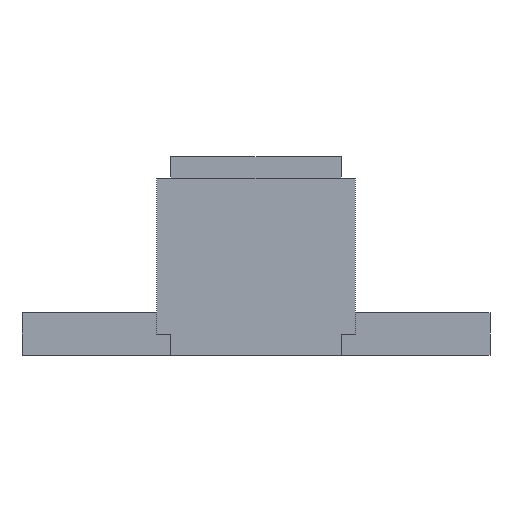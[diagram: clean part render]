
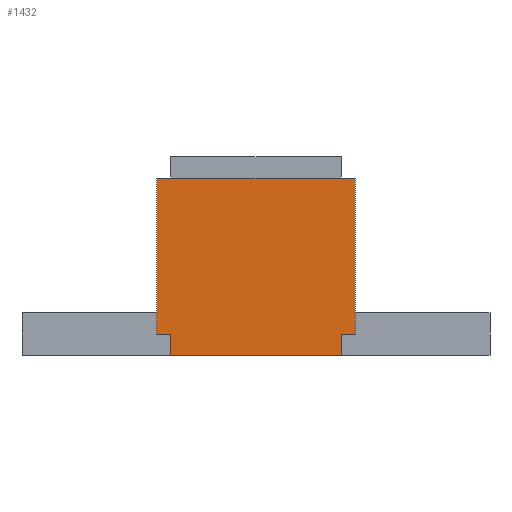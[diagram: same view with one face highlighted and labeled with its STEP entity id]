
A CAD part, front view. The second image highlights one B-rep face of the part: STEP entity #1432.
In plain terms, the highlighted planar face has unit normal (0, -1, 0).
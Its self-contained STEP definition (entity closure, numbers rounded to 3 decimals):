
#126 = PLANE('',#127);
#127 = AXIS2_PLACEMENT_3D('',#128,#129,#130);
#128 = CARTESIAN_POINT('',(0.,86.,0.));
#129 = DIRECTION('',(0.,0.,-1.));
#130 = DIRECTION('',(1.,0.,0.));
#294 = VERTEX_POINT('',#295);
#295 = CARTESIAN_POINT('',(45.,0.,0.));
#309 = PLANE('',#310);
#310 = AXIS2_PLACEMENT_3D('',#311,#312,#313);
#311 = CARTESIAN_POINT('',(45.,24.,6.));
#312 = DIRECTION('',(1.,0.,0.));
#313 = DIRECTION('',(0.,0.,-1.));
#321 = EDGE_CURVE('',#322,#294,#324,.T.);
#322 = VERTEX_POINT('',#323);
#323 = CARTESIAN_POINT('',(21.,0.,0.));
#324 = SURFACE_CURVE('',#325,(#329,#336),.PCURVE_S1.);
#325 = LINE('',#326,#327);
#326 = CARTESIAN_POINT('',(21.,0.,0.));
#327 = VECTOR('',#328,1.);
#328 = DIRECTION('',(1.,0.,0.));
#329 = PCURVE('',#126,#330);
#330 = DEFINITIONAL_REPRESENTATION('',(#331),#335);
#331 = LINE('',#332,#333);
#332 = CARTESIAN_POINT('',(21.,86.));
#333 = VECTOR('',#334,1.);
#334 = DIRECTION('',(1.,0.));
#335 = ( GEOMETRIC_REPRESENTATION_CONTEXT(2) 
PARAMETRIC_REPRESENTATION_CONTEXT() REPRESENTATION_CONTEXT('2D SPACE',''
  ) );
#336 = PCURVE('',#337,#342);
#337 = PLANE('',#338);
#338 = AXIS2_PLACEMENT_3D('',#339,#340,#341);
#339 = CARTESIAN_POINT('',(21.,0.,6.));
#340 = DIRECTION('',(0.,-1.,0.));
#341 = DIRECTION('',(0.,0.,-1.));
#342 = DEFINITIONAL_REPRESENTATION('',(#343),#347);
#343 = LINE('',#344,#345);
#344 = CARTESIAN_POINT('',(6.,0.));
#345 = VECTOR('',#346,1.);
#346 = DIRECTION('',(0.,1.));
#347 = ( GEOMETRIC_REPRESENTATION_CONTEXT(2) 
PARAMETRIC_REPRESENTATION_CONTEXT() REPRESENTATION_CONTEXT('2D SPACE',''
  ) );
#363 = PLANE('',#364);
#364 = AXIS2_PLACEMENT_3D('',#365,#366,#367);
#365 = CARTESIAN_POINT('',(21.,24.,6.));
#366 = DIRECTION('',(1.,0.,0.));
#367 = DIRECTION('',(0.,0.,-1.));
#1385 = VERTEX_POINT('',#1386);
#1386 = CARTESIAN_POINT('',(21.,0.,3.));
#1400 = PLANE('',#1401);
#1401 = AXIS2_PLACEMENT_3D('',#1402,#1403,#1404);
#1402 = CARTESIAN_POINT('',(19.,3.,3.));
#1403 = DIRECTION('',(0.,0.,-1.));
#1404 = DIRECTION('',(1.,0.,0.));
#1412 = EDGE_CURVE('',#1385,#322,#1413,.T.);
#1413 = SURFACE_CURVE('',#1414,(#1418,#1425),.PCURVE_S1.);
#1414 = LINE('',#1415,#1416);
#1415 = CARTESIAN_POINT('',(21.,0.,6.));
#1416 = VECTOR('',#1417,1.);
#1417 = DIRECTION('',(0.,0.,-1.));
#1418 = PCURVE('',#363,#1419);
#1419 = DEFINITIONAL_REPRESENTATION('',(#1420),#1424);
#1420 = LINE('',#1421,#1422);
#1421 = CARTESIAN_POINT('',(0.,-24.));
#1422 = VECTOR('',#1423,1.);
#1423 = DIRECTION('',(1.,0.));
#1424 = ( GEOMETRIC_REPRESENTATION_CONTEXT(2) 
PARAMETRIC_REPRESENTATION_CONTEXT() REPRESENTATION_CONTEXT('2D SPACE',''
  ) );
#1425 = PCURVE('',#337,#1426);
#1426 = DEFINITIONAL_REPRESENTATION('',(#1427),#1431);
#1427 = LINE('',#1428,#1429);
#1428 = CARTESIAN_POINT('',(0.,0.));
#1429 = VECTOR('',#1430,1.);
#1430 = DIRECTION('',(1.,0.));
#1431 = ( GEOMETRIC_REPRESENTATION_CONTEXT(2) 
PARAMETRIC_REPRESENTATION_CONTEXT() REPRESENTATION_CONTEXT('2D SPACE',''
  ) );
#1432 = ADVANCED_FACE('',(#1433),#337,.T.);
#1433 = FACE_BOUND('',#1434,.T.);
#1434 = EDGE_LOOP('',(#1435,#1458,#1486,#1514,#1542,#1570,#1591,#1592));
#1435 = ORIENTED_EDGE('',*,*,#1436,.F.);
#1436 = EDGE_CURVE('',#1437,#294,#1439,.T.);
#1437 = VERTEX_POINT('',#1438);
#1438 = CARTESIAN_POINT('',(45.,0.,3.));
#1439 = SURFACE_CURVE('',#1440,(#1444,#1451),.PCURVE_S1.);
#1440 = LINE('',#1441,#1442);
#1441 = CARTESIAN_POINT('',(45.,0.,6.));
#1442 = VECTOR('',#1443,1.);
#1443 = DIRECTION('',(0.,0.,-1.));
#1444 = PCURVE('',#337,#1445);
#1445 = DEFINITIONAL_REPRESENTATION('',(#1446),#1450);
#1446 = LINE('',#1447,#1448);
#1447 = CARTESIAN_POINT('',(0.,24.));
#1448 = VECTOR('',#1449,1.);
#1449 = DIRECTION('',(1.,0.));
#1450 = ( GEOMETRIC_REPRESENTATION_CONTEXT(2) 
PARAMETRIC_REPRESENTATION_CONTEXT() REPRESENTATION_CONTEXT('2D SPACE',''
  ) );
#1451 = PCURVE('',#309,#1452);
#1452 = DEFINITIONAL_REPRESENTATION('',(#1453),#1457);
#1453 = LINE('',#1454,#1455);
#1454 = CARTESIAN_POINT('',(0.,-24.));
#1455 = VECTOR('',#1456,1.);
#1456 = DIRECTION('',(1.,0.));
#1457 = ( GEOMETRIC_REPRESENTATION_CONTEXT(2) 
PARAMETRIC_REPRESENTATION_CONTEXT() REPRESENTATION_CONTEXT('2D SPACE',''
  ) );
#1458 = ORIENTED_EDGE('',*,*,#1459,.T.);
#1459 = EDGE_CURVE('',#1437,#1460,#1462,.T.);
#1460 = VERTEX_POINT('',#1461);
#1461 = CARTESIAN_POINT('',(47.,0.,3.));
#1462 = SURFACE_CURVE('',#1463,(#1467,#1474),.PCURVE_S1.);
#1463 = LINE('',#1464,#1465);
#1464 = CARTESIAN_POINT('',(19.,0.,3.));
#1465 = VECTOR('',#1466,1.);
#1466 = DIRECTION('',(1.,0.,0.));
#1467 = PCURVE('',#337,#1468);
#1468 = DEFINITIONAL_REPRESENTATION('',(#1469),#1473);
#1469 = LINE('',#1470,#1471);
#1470 = CARTESIAN_POINT('',(3.,-2.));
#1471 = VECTOR('',#1472,1.);
#1472 = DIRECTION('',(0.,1.));
#1473 = ( GEOMETRIC_REPRESENTATION_CONTEXT(2) 
PARAMETRIC_REPRESENTATION_CONTEXT() REPRESENTATION_CONTEXT('2D SPACE',''
  ) );
#1474 = PCURVE('',#1475,#1480);
#1475 = PLANE('',#1476);
#1476 = AXIS2_PLACEMENT_3D('',#1477,#1478,#1479);
#1477 = CARTESIAN_POINT('',(19.,3.,3.));
#1478 = DIRECTION('',(0.,0.,-1.));
#1479 = DIRECTION('',(1.,0.,0.));
#1480 = DEFINITIONAL_REPRESENTATION('',(#1481),#1485);
#1481 = LINE('',#1482,#1483);
#1482 = CARTESIAN_POINT('',(0.,3.));
#1483 = VECTOR('',#1484,1.);
#1484 = DIRECTION('',(1.,0.));
#1485 = ( GEOMETRIC_REPRESENTATION_CONTEXT(2) 
PARAMETRIC_REPRESENTATION_CONTEXT() REPRESENTATION_CONTEXT('2D SPACE',''
  ) );
#1486 = ORIENTED_EDGE('',*,*,#1487,.F.);
#1487 = EDGE_CURVE('',#1488,#1460,#1490,.T.);
#1488 = VERTEX_POINT('',#1489);
#1489 = CARTESIAN_POINT('',(47.,0.,25.));
#1490 = SURFACE_CURVE('',#1491,(#1495,#1502),.PCURVE_S1.);
#1491 = LINE('',#1492,#1493);
#1492 = CARTESIAN_POINT('',(47.,0.,25.));
#1493 = VECTOR('',#1494,1.);
#1494 = DIRECTION('',(0.,0.,-1.));
#1495 = PCURVE('',#337,#1496);
#1496 = DEFINITIONAL_REPRESENTATION('',(#1497),#1501);
#1497 = LINE('',#1498,#1499);
#1498 = CARTESIAN_POINT('',(-19.,26.));
#1499 = VECTOR('',#1500,1.);
#1500 = DIRECTION('',(1.,0.));
#1501 = ( GEOMETRIC_REPRESENTATION_CONTEXT(2) 
PARAMETRIC_REPRESENTATION_CONTEXT() REPRESENTATION_CONTEXT('2D SPACE',''
  ) );
#1502 = PCURVE('',#1503,#1508);
#1503 = PLANE('',#1504);
#1504 = AXIS2_PLACEMENT_3D('',#1505,#1506,#1507);
#1505 = CARTESIAN_POINT('',(47.,3.,25.));
#1506 = DIRECTION('',(1.,0.,0.));
#1507 = DIRECTION('',(0.,0.,-1.));
#1508 = DEFINITIONAL_REPRESENTATION('',(#1509),#1513);
#1509 = LINE('',#1510,#1511);
#1510 = CARTESIAN_POINT('',(0.,-3.));
#1511 = VECTOR('',#1512,1.);
#1512 = DIRECTION('',(1.,0.));
#1513 = ( GEOMETRIC_REPRESENTATION_CONTEXT(2) 
PARAMETRIC_REPRESENTATION_CONTEXT() REPRESENTATION_CONTEXT('2D SPACE',''
  ) );
#1514 = ORIENTED_EDGE('',*,*,#1515,.F.);
#1515 = EDGE_CURVE('',#1516,#1488,#1518,.T.);
#1516 = VERTEX_POINT('',#1517);
#1517 = CARTESIAN_POINT('',(19.,0.,25.));
#1518 = SURFACE_CURVE('',#1519,(#1523,#1530),.PCURVE_S1.);
#1519 = LINE('',#1520,#1521);
#1520 = CARTESIAN_POINT('',(19.,0.,25.));
#1521 = VECTOR('',#1522,1.);
#1522 = DIRECTION('',(1.,0.,0.));
#1523 = PCURVE('',#337,#1524);
#1524 = DEFINITIONAL_REPRESENTATION('',(#1525),#1529);
#1525 = LINE('',#1526,#1527);
#1526 = CARTESIAN_POINT('',(-19.,-2.));
#1527 = VECTOR('',#1528,1.);
#1528 = DIRECTION('',(0.,1.));
#1529 = ( GEOMETRIC_REPRESENTATION_CONTEXT(2) 
PARAMETRIC_REPRESENTATION_CONTEXT() REPRESENTATION_CONTEXT('2D SPACE',''
  ) );
#1530 = PCURVE('',#1531,#1536);
#1531 = PLANE('',#1532);
#1532 = AXIS2_PLACEMENT_3D('',#1533,#1534,#1535);
#1533 = CARTESIAN_POINT('',(19.,3.,25.));
#1534 = DIRECTION('',(0.,0.,-1.));
#1535 = DIRECTION('',(1.,0.,0.));
#1536 = DEFINITIONAL_REPRESENTATION('',(#1537),#1541);
#1537 = LINE('',#1538,#1539);
#1538 = CARTESIAN_POINT('',(0.,3.));
#1539 = VECTOR('',#1540,1.);
#1540 = DIRECTION('',(1.,0.));
#1541 = ( GEOMETRIC_REPRESENTATION_CONTEXT(2) 
PARAMETRIC_REPRESENTATION_CONTEXT() REPRESENTATION_CONTEXT('2D SPACE',''
  ) );
#1542 = ORIENTED_EDGE('',*,*,#1543,.T.);
#1543 = EDGE_CURVE('',#1516,#1544,#1546,.T.);
#1544 = VERTEX_POINT('',#1545);
#1545 = CARTESIAN_POINT('',(19.,0.,3.));
#1546 = SURFACE_CURVE('',#1547,(#1551,#1558),.PCURVE_S1.);
#1547 = LINE('',#1548,#1549);
#1548 = CARTESIAN_POINT('',(19.,0.,25.));
#1549 = VECTOR('',#1550,1.);
#1550 = DIRECTION('',(0.,0.,-1.));
#1551 = PCURVE('',#337,#1552);
#1552 = DEFINITIONAL_REPRESENTATION('',(#1553),#1557);
#1553 = LINE('',#1554,#1555);
#1554 = CARTESIAN_POINT('',(-19.,-2.));
#1555 = VECTOR('',#1556,1.);
#1556 = DIRECTION('',(1.,0.));
#1557 = ( GEOMETRIC_REPRESENTATION_CONTEXT(2) 
PARAMETRIC_REPRESENTATION_CONTEXT() REPRESENTATION_CONTEXT('2D SPACE',''
  ) );
#1558 = PCURVE('',#1559,#1564);
#1559 = PLANE('',#1560);
#1560 = AXIS2_PLACEMENT_3D('',#1561,#1562,#1563);
#1561 = CARTESIAN_POINT('',(19.,3.,25.));
#1562 = DIRECTION('',(1.,0.,0.));
#1563 = DIRECTION('',(0.,0.,-1.));
#1564 = DEFINITIONAL_REPRESENTATION('',(#1565),#1569);
#1565 = LINE('',#1566,#1567);
#1566 = CARTESIAN_POINT('',(0.,-3.));
#1567 = VECTOR('',#1568,1.);
#1568 = DIRECTION('',(1.,0.));
#1569 = ( GEOMETRIC_REPRESENTATION_CONTEXT(2) 
PARAMETRIC_REPRESENTATION_CONTEXT() REPRESENTATION_CONTEXT('2D SPACE',''
  ) );
#1570 = ORIENTED_EDGE('',*,*,#1571,.T.);
#1571 = EDGE_CURVE('',#1544,#1385,#1572,.T.);
#1572 = SURFACE_CURVE('',#1573,(#1577,#1584),.PCURVE_S1.);
#1573 = LINE('',#1574,#1575);
#1574 = CARTESIAN_POINT('',(19.,0.,3.));
#1575 = VECTOR('',#1576,1.);
#1576 = DIRECTION('',(1.,0.,0.));
#1577 = PCURVE('',#337,#1578);
#1578 = DEFINITIONAL_REPRESENTATION('',(#1579),#1583);
#1579 = LINE('',#1580,#1581);
#1580 = CARTESIAN_POINT('',(3.,-2.));
#1581 = VECTOR('',#1582,1.);
#1582 = DIRECTION('',(0.,1.));
#1583 = ( GEOMETRIC_REPRESENTATION_CONTEXT(2) 
PARAMETRIC_REPRESENTATION_CONTEXT() REPRESENTATION_CONTEXT('2D SPACE',''
  ) );
#1584 = PCURVE('',#1400,#1585);
#1585 = DEFINITIONAL_REPRESENTATION('',(#1586),#1590);
#1586 = LINE('',#1587,#1588);
#1587 = CARTESIAN_POINT('',(0.,3.));
#1588 = VECTOR('',#1589,1.);
#1589 = DIRECTION('',(1.,0.));
#1590 = ( GEOMETRIC_REPRESENTATION_CONTEXT(2) 
PARAMETRIC_REPRESENTATION_CONTEXT() REPRESENTATION_CONTEXT('2D SPACE',''
  ) );
#1591 = ORIENTED_EDGE('',*,*,#1412,.T.);
#1592 = ORIENTED_EDGE('',*,*,#321,.T.);
